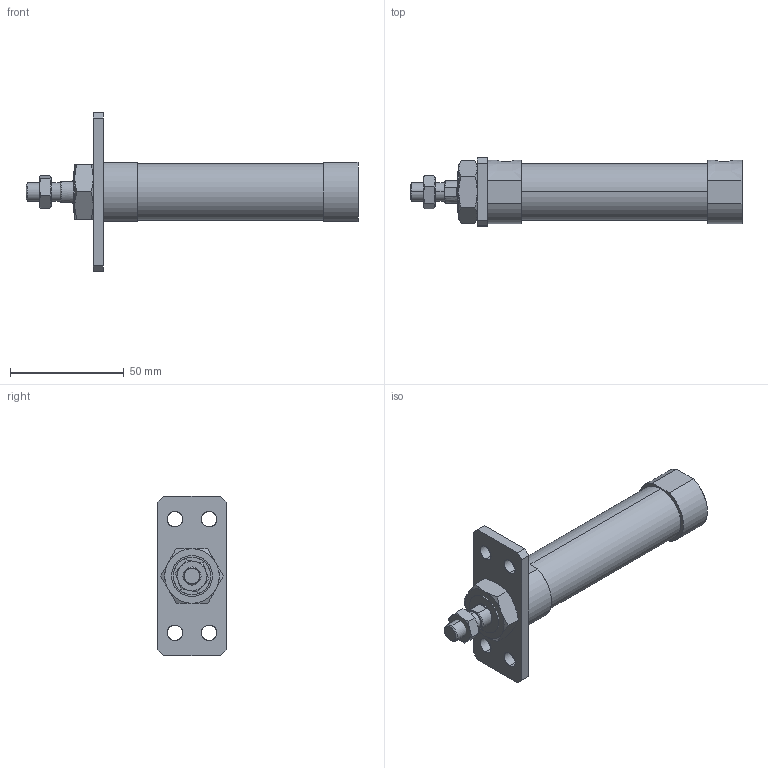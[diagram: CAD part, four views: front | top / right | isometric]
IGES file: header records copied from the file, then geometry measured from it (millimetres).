
Start section: SolidWorks IGES file using analytic representation for surfaces
Global section: file name: C:\Users\Toshiba\Desktop\JGND2-20-50-A.IGS; native system: SolidWorks 2014; preprocessor: SolidWorks 2014; author: Toshiba; date: 160804.102230; units: millimetre
Bounding box: 146 x 30 x 70 mm (x, y, z)
Surface area: 19490 mm2 (no closed solid volume)
Topology: 0 solids, 0 shells, 104 faces, 1876 edges, 1876 vertices
Faces by surface type: bspline 68, revolution 36
